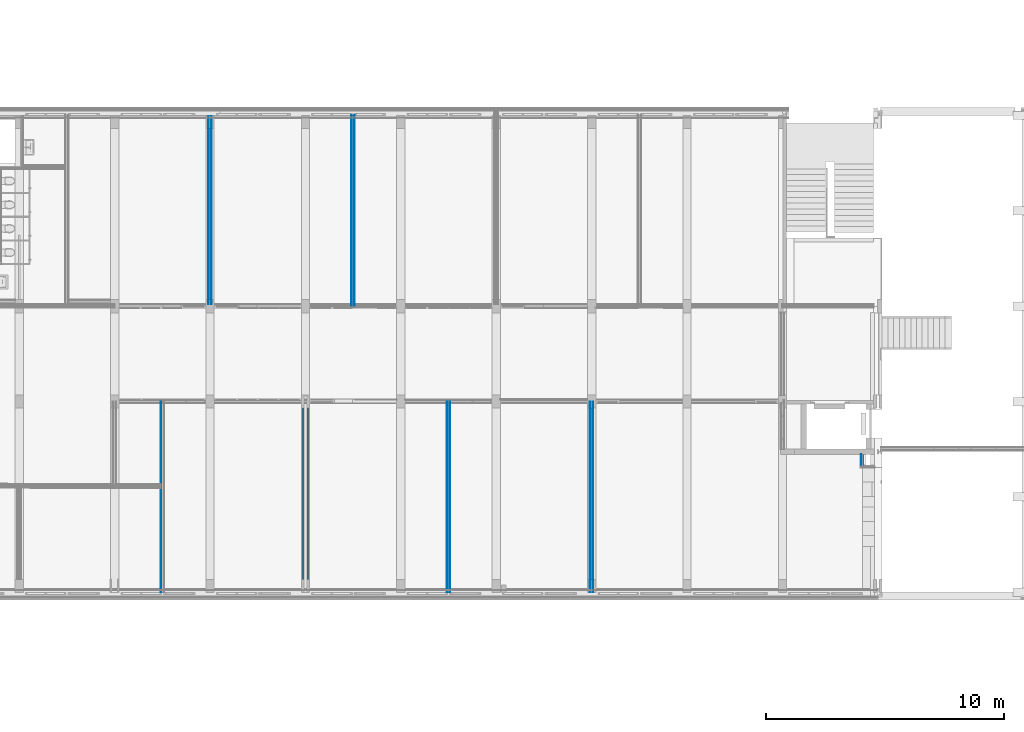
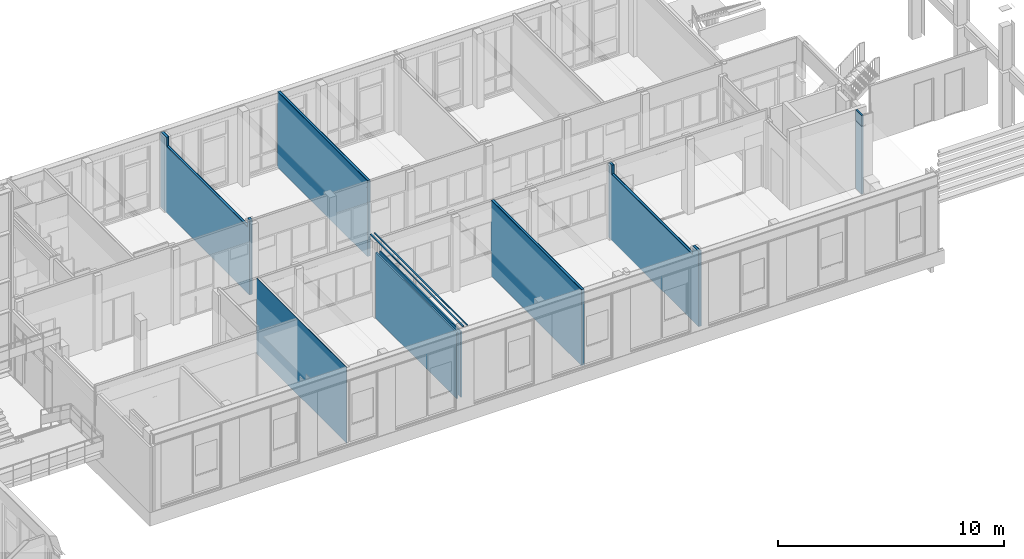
# One storey, part 53 of 94: 26 building element parts, 7 elements without a shape of their own.
"""IFC2X3 building model written with IfcOpenShell, lengths in millimetres."""

from ifc_helpers import new_model, entity, si_unit, converted_unit, derived_unit, money_unit, direction, frame, origin_with_axes, place, context, subcontext, project, spatial, faceted_brep, material, type_object, element, aggregate, save


model = new_model("IFC2X3")

# Units and contexts
model_context = context("Model", 3, precision=0.01, world=origin_with_axes(), true_north=direction((0.0, 1.0)))
body_context = subcontext(model_context, "Body", "Model", "MODEL_VIEW")
ifc_project = project(units=[si_unit("LENGTHUNIT", "METRE", prefix="MILLI"), si_unit("AREAUNIT", "SQUARE_METRE"), si_unit("VOLUMEUNIT", "CUBIC_METRE"), converted_unit("PLANEANGLEUNIT", "DEGREE", entity("IfcPlaneAngleMeasure", 0.0174532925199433), si_unit("PLANEANGLEUNIT", "RADIAN"), dimensions=[0, 0, 0, 0, 0, 0, 0]), money_unit("EUR"), converted_unit("TIMEUNIT", "Year", entity("IfcTimeMeasure", 31557600.0), si_unit("TIMEUNIT", "SECOND"), dimensions=[0, 0, 1, 0, 0, 0, 0]), si_unit("MASSUNIT", "GRAM", prefix="KILO"), si_unit("THERMODYNAMICTEMPERATUREUNIT", "DEGREE_CELSIUS"), si_unit("LUMINOUSINTENSITYUNIT", "LUMEN"), si_unit("ENERGYUNIT", "JOULE", prefix="MEGA"), derived_unit("THERMALCONDUCTANCEUNIT", [(si_unit("POWERUNIT", "WATT"), 1), (si_unit("LENGTHUNIT", "METRE"), -1), (si_unit("THERMODYNAMICTEMPERATUREUNIT", "KELVIN"), -1)]), derived_unit("SPECIFICHEATCAPACITYUNIT", [(si_unit("ENERGYUNIT", "JOULE"), 1), (si_unit("MASSUNIT", "GRAM", prefix="KILO"), -1), (si_unit("THERMODYNAMICTEMPERATUREUNIT", "KELVIN"), -1)]), derived_unit("MASSDENSITYUNIT", [(si_unit("MASSUNIT", "GRAM", prefix="KILO"), 1), (si_unit("VOLUMEUNIT", "CUBIC_METRE"), -1)])], contexts=[model_context])

# Site, building, storey
site_placement = place(None, origin_with_axes())
site = spatial("IfcSite", under=ifc_project, at=site_placement, Name="<site naam>", CompositionType="ELEMENT")
building_placement = place(site_placement, origin_with_axes())
building = spatial("IfcBuilding", under=site, at=building_placement, Name="<Naam gebouw>", CompositionType="ELEMENT")
storey_placement = place(building_placement, frame((0.0, 0.0, 4250.0), z_axis=(0.0, 0.0, 1.0), x_axis=(1.0, 0.0, 0.0)))
storey = spatial("IfcBuildingStorey", under=building, at=storey_placement, Name="01 1e verdieping", CompositionType="ELEMENT", Elevation=4250.0)

# Wall, building element parts
wall_type_1 = type_object("IfcWallType", Name="MS-01 GF 150 ECO DGS/2.100.2.A 150", PredefinedType="NOTDEFINED")
wall_1_placement = place(storey_placement, frame((30000.00153242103, 19999.99999973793, 0.0), z_axis=(0.0, 0.0, 1.0), x_axis=(1.683977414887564e-05, -0.9999999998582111, 0.0)))
wall_1 = element("IfcWall", 1, at=wall_1_placement, inside=storey, type_object=wall_type_1, Name="22_Binnenwand_MS-01")
ifc_material_1 = material(Name="gipsplaat")
building_element_part_1_placement = place(wall_1_placement, origin_with_axes())
building_element_part_1 = element("IfcBuildingElementPart", 2, at=building_element_part_1_placement, material=ifc_material_1, Name="gipsplaat", context=body_context, shape_type="Brep", body=[
    faceted_brep([(0.0, 62.50000000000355, 4100.0), (7971.001023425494, 62.49999998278, 4100.0), (7971.000000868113, 62.49999999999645, 0.0), (0.0, 62.50000000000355, 0.0), (7912.517790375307, 62.49999999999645, 3740.0), (7912.517790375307, 62.49999999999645, 3700.0), (7919.705738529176, 62.49999999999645, 3700.0), (7919.705738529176, 62.49999999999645, 3740.0), (7971.000818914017, 49.99999998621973, 4100.0), (0.0, 50.00000000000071, 4100.0), (7971.000000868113, 49.99999999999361, 0.0), (0.0, 50.00000000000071, 0.0), (7912.517579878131, 49.99999999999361, 3740.0), (7912.517579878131, 49.99999999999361, 3700.0), (7919.705528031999, 49.99999999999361, 3700.0), (7919.705528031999, 49.99999999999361, 3740.0)], [[[0, 1, 2, 3], [4, 5, 6, 7]], [[8, 1, 0, 9]], [[1, 8, 10, 2]], [[3, 2, 10, 11]], [[9, 0, 3, 11]], [[12, 13, 5, 4]], [[13, 14, 6, 5]], [[14, 15, 7, 6]], [[15, 12, 4, 7]], [[8, 9, 11, 10], [12, 15, 14, 13]]]),
])
ifc_material_2 = material(Name="isolatie_steenwol LSW")
building_element_part_2_placement = place(wall_1_placement, origin_with_axes())
building_element_part_2 = element("IfcBuildingElementPart", 3, at=building_element_part_2_placement, material=ifc_material_2, Name="isolatie_steenwol LSW", context=body_context, shape_type="Brep", body=[
    faceted_brep([(0.0, 50.00000000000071, 4100.0), (7971.000818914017, 49.99999998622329, 4100.0), (7971.000000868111, 49.99999999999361, 0.0), (0.0, 50.00000000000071, 0.0), (7912.517579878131, 49.99999999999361, 3740.0), (7912.517579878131, 49.99999999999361, 3700.0), (7919.705528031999, 49.99999999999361, 3700.0), (7919.705528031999, 49.99999999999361, 3740.0), (7970.999182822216, -49.99999998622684, 4100.0), (0.0, -49.99999999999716, 4100.0), (7971.000000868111, -50.00000000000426, 0.0), (0.0, -49.99999999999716, 0.0), (7912.515895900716, -50.00000000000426, 3740.0), (7912.515895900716, -50.00000000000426, 3700.0), (7919.703844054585, -50.00000000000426, 3700.0), (7919.703844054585, -50.00000000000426, 3740.0)], [[[0, 1, 2, 3], [4, 5, 6, 7]], [[8, 1, 0, 9]], [[1, 8, 10, 2]], [[3, 2, 10, 11]], [[9, 0, 3, 11]], [[12, 13, 5, 4]], [[13, 14, 6, 5]], [[14, 15, 7, 6]], [[15, 12, 4, 7]], [[8, 9, 11, 10], [12, 15, 14, 13]]]),
])
building_element_part_3_placement = place(wall_1_placement, origin_with_axes())
building_element_part_3 = element("IfcBuildingElementPart", 4, at=building_element_part_3_placement, material=ifc_material_1, Name="gipsplaat", context=body_context, shape_type="Brep", body=[
    faceted_brep([(0.0, -49.99999999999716, 4100.0), (7970.999182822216, -49.99999998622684, 4100.0), (7971.000000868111, -50.00000000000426, 0.0), (0.0, -49.99999999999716, 0.0), (7912.515895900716, -50.00000000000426, 3740.0), (7912.515895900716, -50.00000000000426, 3700.0), (7919.703844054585, -50.00000000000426, 3700.0), (7919.703844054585, -50.00000000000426, 3740.0), (7970.99897831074, -62.49999998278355, 4100.0), (0.0, -62.5, 4100.0), (7971.000000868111, -62.50000000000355, 0.0), (0.0, -62.5, 0.0), (7912.515685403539, -62.50000000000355, 3740.0), (7912.515685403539, -62.50000000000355, 3700.0), (7919.703633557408, -62.50000000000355, 3700.0), (7919.703633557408, -62.50000000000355, 3740.0)], [[[0, 1, 2, 3], [4, 5, 6, 7]], [[8, 1, 0, 9]], [[1, 8, 10, 2]], [[3, 2, 10, 11]], [[9, 0, 3, 11]], [[12, 13, 5, 4]], [[13, 14, 6, 5]], [[14, 15, 7, 6]], [[15, 12, 4, 7]], [[8, 9, 11, 10], [12, 15, 14, 13]]]),
])
building_element_part_4_placement = place(wall_1_placement, origin_with_axes())
building_element_part_4 = element("IfcBuildingElementPart", 5, at=building_element_part_4_placement, material=ifc_material_1, Name="gipsplaat", context=body_context, shape_type="Brep", body=[
    faceted_brep([(0.0, -62.5, 4100.0), (7970.99897831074, -62.49999998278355, 4100.0), (7971.000000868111, -62.50000000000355, 0.0), (0.0, -62.5, 0.0), (7912.515685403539, -62.50000000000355, 3740.0), (7912.515685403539, -62.50000000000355, 3700.0), (7919.703633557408, -62.50000000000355, 3700.0), (7919.703633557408, -62.50000000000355, 3740.0), (7970.998773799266, -74.99999997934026, 4100.0), (0.0, -74.99999999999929, 4100.0), (7971.000000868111, -75.00000000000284, 0.0), (7921.609449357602, -74.99748490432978, 0.0), (74.99874286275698, -74.86534975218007, 0.0), (74.99874059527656, -75.00000000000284, 0.0), (0.0, -74.99999999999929, 0.0), (7912.515474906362, -75.00000000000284, 3740.0), (7912.515474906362, -75.00000000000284, 3700.0), (7919.70342306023, -75.00000000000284, 3700.0), (7919.70342306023, -75.00000000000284, 3740.0), (74.99874059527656, -75.00000000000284, 3.000000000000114), (7921.609449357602, -74.99748490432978, 3.000000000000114), (74.99874286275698, -74.86534975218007, 3.000000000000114)], [[[0, 1, 2, 3], [4, 5, 6, 7]], [[8, 1, 0, 9]], [[1, 8, 10, 2]], [[2, 10, 11, 12, 13, 14, 3]], [[9, 0, 3, 14]], [[15, 16, 5, 4]], [[16, 17, 6, 5]], [[17, 18, 7, 6]], [[18, 15, 4, 7]], [[8, 9, 14, 13, 19, 20, 11, 10], [15, 18, 17, 16]], [[11, 20, 21, 12]], [[12, 21, 19, 13]], [[20, 19, 21]]]),
])

wall_type_2 = type_object("IfcWallType", Name="metalstud-lucht-metalstud 270 270", PredefinedType="NOTDEFINED")
wall_2_placement = place(storey_placement, frame((28000.00000000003, 0.0, 0.0), z_axis=(0.0, 0.0, 1.0), x_axis=(0.0, 1.0, 0.0)))
wall_2 = element("IfcWall", 6, at=wall_2_placement, inside=storey, type_object=wall_type_2, Name="22_Binnenwand_metalstud-lucht-metalstud")
ifc_material_3 = material(Name="metal_stud")
building_element_part_5_placement = place(wall_2_placement, origin_with_axes())
building_element_part_5 = element("IfcBuildingElementPart", 7, at=building_element_part_5_placement, material=ifc_material_3, Name="metal_stud", context=body_context, shape_type="Brep", body=[
    faceted_brep([(7725.000000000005, 135.0000000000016, 3569.999999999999), (549.9999999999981, 135.0000000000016, 3569.999999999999), (549.9999999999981, 65.00000000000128, 3569.999999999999), (7725.000000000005, 65.00000000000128, 3569.999999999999), (7725.000000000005, 135.0000000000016, 0.0), (549.9999999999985, 135.0000000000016, 0.0), (549.9999999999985, 65.00000000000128, 0.0), (7725.000000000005, 65.00000000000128, 0.0)], [[[0, 1, 2, 3]], [[4, 5, 1, 0]], [[5, 6, 2, 1]], [[3, 2, 6, 7]], [[4, 0, 3, 7]], [[7, 6, 5, 4]]]),
    faceted_brep([(0.0, 65.00000000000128, 4250.0), (0.0, 65.00000000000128, 4220.000000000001), (8225.00000000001, 65.00000000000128, 4220.000000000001), (8225.00000000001, 65.00000000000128, 4250.0), (0.0, 135.0000000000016, 4250.0), (0.0, 135.0000000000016, 4220.000000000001), (8225.00000000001, 135.0000000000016, 4220.000000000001), (8225.00000000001, 135.0000000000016, 4250.0)], [[[0, 1, 2, 3]], [[4, 5, 1, 0]], [[5, 6, 2, 1]], [[3, 2, 6, 7]], [[4, 0, 3, 7]], [[7, 6, 5, 4]]]),
])
building_element_part_6_placement = place(wall_2_placement, origin_with_axes())
building_element_part_6 = element("IfcBuildingElementPart", 8, at=building_element_part_6_placement, material=ifc_material_3, Name="metal_stud", context=body_context, shape_type="Brep", body=[
    faceted_brep([(7725.000000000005, -65.00000000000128, 3569.999999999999), (549.9999999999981, -65.00000000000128, 3569.999999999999), (549.9999999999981, -134.999999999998, 3569.999999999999), (7725.000000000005, -134.999999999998, 3569.999999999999), (7725.000000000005, -65.00000000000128, 0.0), (549.9999999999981, -65.00000000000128, 0.0), (549.9999999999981, -135.0000000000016, 0.0), (7725.000000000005, -135.0000000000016, 0.0)], [[[0, 1, 2, 3]], [[4, 5, 1, 0]], [[5, 6, 2, 1]], [[3, 2, 6, 7]], [[4, 0, 3, 7]], [[7, 6, 5, 4]]]),
    faceted_brep([(0.0, -134.999999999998, 4250.0), (0.0, -134.999999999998, 4220.000000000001), (8225.00000000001, -134.999999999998, 4220.000000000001), (8225.00000000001, -134.999999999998, 4250.0), (0.0, -65.00000000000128, 4250.0), (0.0, -65.00000000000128, 4220.000000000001), (8225.00000000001, -65.00000000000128, 4220.000000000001), (8225.00000000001, -65.00000000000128, 4250.0)], [[[0, 1, 2, 3]], [[4, 5, 1, 0]], [[5, 6, 2, 1]], [[3, 2, 6, 7]], [[4, 0, 3, 7]], [[7, 6, 5, 4]]]),
])
aggregate(wall_2, [building_element_part_5, building_element_part_6])

# Building element part
building_element_part_7_placement = place(wall_1_placement, origin_with_axes())
building_element_part_7 = element("IfcBuildingElementPart", 9, at=building_element_part_7_placement, material=ifc_material_1, Name="gipsplaat", context=body_context, shape_type="Brep", body=[
    faceted_brep([(0.0, 75.00000000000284, 4100.0), (7971.001227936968, 74.99999997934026, 4100.0), (7971.000000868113, 74.99999999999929, 0.0), (0.0, 75.00000000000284, 0.0), (7912.518000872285, 74.99998819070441, 3740.0), (7912.518000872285, 74.99998819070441, 3700.0), (7919.705949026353, 74.99999999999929, 3700.0), (7919.705949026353, 74.99999999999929, 3740.0), (7971.001023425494, 62.49999998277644, 4100.0), (0.0, 62.50000000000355, 4100.0), (7971.000000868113, 62.49999999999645, 0.0), (0.0, 62.50000000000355, 0.0), (7912.517790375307, 62.49999999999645, 3740.0), (7912.517790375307, 62.49999999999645, 3700.0), (7919.705738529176, 62.49999999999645, 3700.0), (7919.705738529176, 62.49999999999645, 3740.0)], [[[0, 1, 2, 3], [4, 5, 6, 7]], [[8, 1, 0, 9]], [[1, 8, 10, 2]], [[3, 2, 10, 11]], [[9, 0, 3, 11]], [[5, 4, 12, 13]], [[13, 14, 6, 5]], [[14, 15, 7, 6]], [[15, 12, 4, 7]], [[8, 9, 11, 10], [12, 15, 14, 13]]]),
])

aggregate(wall_1, [building_element_part_1, building_element_part_2, building_element_part_3, building_element_part_4, building_element_part_7])

# Wall, building element parts
wall_3_placement = place(storey_placement, frame((24000.00000000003, 19954.99999617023, 0.0), z_axis=(0.0, 0.0, 1.0), x_axis=(0.0, -1.0, 0.0)))
wall_3 = element("IfcWall", 10, at=wall_3_placement, inside=storey, type_object=wall_type_1, Name="22_Binnenwand_MS-01")
building_element_part_8_placement = place(wall_3_placement, origin_with_axes())
building_element_part_8 = element("IfcBuildingElementPart", 11, at=building_element_part_8_placement, material=ifc_material_1, Name="gipsplaat", context=body_context, shape_type="Brep", body=[
    faceted_brep([(0.0, 62.5, 4050.000000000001), (0.0, 74.99999999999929, 4050.000000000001), (0.0, 74.99999999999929, 0.0), (0.0, 62.5, 0.0), (504.9999961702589, 74.99999999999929, 4050.000000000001), (504.9999961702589, 62.5, 4050.000000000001), (7679.999996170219, 74.99999999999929, 4050.000000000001), (7879.999996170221, 74.99999999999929, 4050.000000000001), (7879.999996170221, 74.99999999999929, 0.0), (504.9999961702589, 74.99999999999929, 3569.999999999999), (7679.999996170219, 74.99999999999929, 3569.999999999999), (7879.999996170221, 62.5, 0.0), (7879.999996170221, 62.5, 4050.000000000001), (7679.999996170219, 62.5, 4050.000000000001), (7679.999996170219, 62.5, 3569.999999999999), (504.9999961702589, 62.5, 3569.999999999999)], [[[0, 1, 2, 3]], [[4, 1, 0, 5]], [[6, 7, 8, 2, 1, 4, 9, 10]], [[3, 2, 8, 11]], [[5, 0, 3, 11, 12, 13, 14, 15]], [[9, 4, 5, 15]], [[7, 6, 13, 12]], [[7, 12, 11, 8]], [[10, 9, 15, 14]], [[6, 10, 14, 13]]]),
])
building_element_part_9_placement = place(wall_3_placement, origin_with_axes())
building_element_part_9 = element("IfcBuildingElementPart", 12, at=building_element_part_9_placement, material=ifc_material_2, Name="isolatie_steenwol LSW", context=body_context, shape_type="Brep", body=[
    faceted_brep([(0.0, -50.00000000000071, 4050.000000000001), (0.0, 50.00000000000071, 4050.000000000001), (0.0, 50.00000000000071, 0.0), (0.0, -50.00000000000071, 0.0), (504.9999961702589, 50.00000000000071, 4050.000000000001), (504.9999961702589, -50.00000000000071, 4050.000000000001), (7679.999996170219, 50.00000000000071, 4050.000000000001), (7879.999996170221, 50.00000000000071, 4050.000000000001), (7879.999996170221, 50.00000000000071, 0.0), (504.9999961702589, 50.00000000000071, 3569.999999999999), (7679.999996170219, 50.00000000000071, 3569.999999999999), (7879.999996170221, -50.00000000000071, 0.0), (7879.999996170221, -50.00000000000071, 4050.000000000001), (7679.999996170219, -50.00000000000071, 4050.000000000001), (7679.999996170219, -50.00000000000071, 3569.999999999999), (504.9999961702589, -50.00000000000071, 3569.999999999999)], [[[0, 1, 2, 3]], [[4, 1, 0, 5]], [[6, 7, 8, 2, 1, 4, 9, 10]], [[3, 2, 8, 11]], [[5, 0, 3, 11, 12, 13, 14, 15]], [[9, 4, 5, 15]], [[7, 6, 13, 12]], [[7, 12, 11, 8]], [[10, 9, 15, 14]], [[6, 10, 14, 13]]]),
])
building_element_part_10_placement = place(wall_3_placement, origin_with_axes())
building_element_part_10 = element("IfcBuildingElementPart", 13, at=building_element_part_10_placement, material=ifc_material_1, Name="gipsplaat", context=body_context, shape_type="Brep", body=[
    faceted_brep([(0.0, -62.5, 4050.000000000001), (0.0, -50.00000000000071, 4050.000000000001), (0.0, -50.00000000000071, 0.0), (0.0, -62.5, 0.0), (504.9999961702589, -50.00000000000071, 4050.000000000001), (504.9999961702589, -62.5, 4050.000000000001), (7679.999996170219, -50.00000000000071, 4050.000000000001), (7879.999996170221, -50.00000000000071, 4050.000000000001), (7879.999996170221, -50.00000000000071, 0.0), (504.9999961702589, -50.00000000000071, 3569.999999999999), (7679.999996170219, -50.00000000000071, 3569.999999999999), (7879.999996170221, -62.5, 0.0), (7879.999996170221, -62.5, 4050.000000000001), (7679.999996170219, -62.5, 4050.000000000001), (7679.999996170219, -62.5, 3569.999999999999), (504.9999961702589, -62.5, 3569.999999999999)], [[[0, 1, 2, 3]], [[4, 1, 0, 5]], [[6, 7, 8, 2, 1, 4, 9, 10]], [[3, 2, 8, 11]], [[5, 0, 3, 11, 12, 13, 14, 15]], [[9, 4, 5, 15]], [[7, 6, 13, 12]], [[7, 12, 11, 8]], [[10, 9, 15, 14]], [[6, 10, 14, 13]]]),
])
building_element_part_11_placement = place(wall_3_placement, origin_with_axes())
building_element_part_11 = element("IfcBuildingElementPart", 14, at=building_element_part_11_placement, material=ifc_material_1, Name="gipsplaat", context=body_context, shape_type="Brep", body=[
    faceted_brep([(0.0, 50.00000000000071, 4050.000000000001), (0.0, 62.5, 4050.000000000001), (0.0, 62.5, 0.0), (0.0, 50.00000000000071, 0.0), (504.9999961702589, 62.5, 4050.000000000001), (504.9999961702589, 50.00000000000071, 4050.000000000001), (7679.999996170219, 62.5, 4050.000000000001), (7879.999996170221, 62.5, 4050.000000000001), (7879.999996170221, 62.5, 0.0), (504.9999961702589, 62.5, 3569.999999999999), (7679.999996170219, 62.5, 3569.999999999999), (7879.999996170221, 50.00000000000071, 0.0), (7879.999996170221, 50.00000000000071, 4050.000000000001), (7679.999996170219, 50.00000000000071, 4050.000000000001), (7679.999996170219, 50.00000000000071, 3569.999999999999), (504.9999961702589, 50.00000000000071, 3569.999999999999)], [[[0, 1, 2, 3]], [[4, 1, 0, 5]], [[6, 7, 8, 2, 1, 4, 9, 10]], [[3, 2, 8, 11]], [[5, 0, 3, 11, 12, 13, 14, 15]], [[9, 4, 5, 15]], [[7, 6, 13, 12]], [[7, 12, 11, 8]], [[10, 9, 15, 14]], [[6, 10, 14, 13]]]),
])
building_element_part_12_placement = place(wall_3_placement, origin_with_axes())
building_element_part_12 = element("IfcBuildingElementPart", 15, at=building_element_part_12_placement, material=ifc_material_1, Name="gipsplaat", context=body_context, shape_type="Brep", body=[
    faceted_brep([(0.0, -74.99999999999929, 4050.000000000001), (0.0, -62.5, 4050.000000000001), (0.0, -62.5, 0.0), (0.0, -74.99999999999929, 0.0), (504.9999961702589, -62.5, 4050.000000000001), (504.9999961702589, -74.99999999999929, 4050.000000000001), (7679.999996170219, -62.5, 4050.000000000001), (7879.999996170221, -62.5, 4050.000000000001), (7879.999996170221, -62.5, 0.0), (504.9999961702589, -62.5, 3569.999999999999), (7679.999996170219, -62.5, 3569.999999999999), (7879.999996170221, -74.99999999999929, 0.0), (7879.999996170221, -74.99999999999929, 4050.000000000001), (7679.999996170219, -74.99999999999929, 4050.000000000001), (7679.999996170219, -74.99999999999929, 3569.999999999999), (504.9999961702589, -74.99999999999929, 3569.999999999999)], [[[0, 1, 2, 3]], [[4, 1, 0, 5]], [[6, 7, 8, 2, 1, 4, 9, 10]], [[3, 2, 8, 11]], [[5, 0, 3, 11, 12, 13, 14, 15]], [[9, 4, 5, 15]], [[7, 6, 13, 12]], [[7, 12, 11, 8]], [[10, 9, 15, 14]], [[6, 10, 14, 13]]]),
])
aggregate(wall_3, [building_element_part_8, building_element_part_9, building_element_part_10, building_element_part_11, building_element_part_12])

wall_4_placement = place(storey_placement, frame((40000.00000000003, 7998.790787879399, 0.0), z_axis=(0.0, 0.0, 1.0), x_axis=(0.0, -1.0, 0.0)))
wall_4 = element("IfcWall", 16, at=wall_4_placement, inside=storey, type_object=wall_type_1, Name="22_Binnenwand_MS-01")
building_element_part_13_placement = place(wall_4_placement, origin_with_axes())
building_element_part_13 = element("IfcBuildingElementPart", 17, at=building_element_part_13_placement, material=ifc_material_1, Name="gipsplaat", context=body_context, shape_type="Brep", body=[
    faceted_brep([(0.0, 62.5, 4050.000000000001), (0.0, 75.00000000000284, 4050.000000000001), (0.0, 75.00000000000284, 0.0), (0.0, 62.5, 0.0), (273.7907878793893, 75.00000000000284, 4050.000000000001), (273.7907878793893, 62.5, 4050.000000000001), (7993.244637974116, 75.00000000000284, 4050.000000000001), (7993.244637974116, 74.99999999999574, 4100.0), (7998.790787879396, 74.99999999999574, 4100.0), (7998.790787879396, 74.99999999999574, 0.0), (7448.790717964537, 75.00000000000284, 0.0), (7448.790717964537, 74.99999999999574, 3.000000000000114), (273.7908820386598, 74.99999999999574, 3.000000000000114), (273.7908820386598, 75.00000000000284, 0.0), (273.7907878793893, 75.00000000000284, 3569.999999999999), (7448.790787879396, 75.00000000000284, 3569.999999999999), (7448.790787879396, 75.00000000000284, 4050.000000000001), (273.7908820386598, 74.84543691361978, 0.0), (7448.790717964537, 74.84543691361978, 0.0), (7998.790787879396, 62.5, 0.0), (7998.790787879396, 62.5, 4100.0), (7993.244637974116, 62.5, 4100.0), (7993.244637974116, 62.5, 4050.000000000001), (7448.790787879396, 62.5, 4050.000000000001), (7448.790787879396, 62.5, 3569.999999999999), (273.7907878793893, 62.5, 3569.999999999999), (7448.790717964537, 74.84543691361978, 3.000000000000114), (273.7908820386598, 74.84543691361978, 3.000000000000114)], [[[0, 1, 2, 3]], [[4, 1, 0, 5]], [[6, 7, 8, 9, 10, 11, 12, 13, 2, 1, 4, 14, 15, 16]], [[13, 17, 18, 10, 9, 19, 3, 2]], [[5, 0, 3, 19, 20, 21, 22, 23, 24, 25]], [[14, 4, 5, 25]], [[21, 7, 6, 22]], [[7, 21, 20, 8]], [[9, 8, 20, 19]], [[18, 26, 11, 10]], [[26, 27, 12, 11]], [[27, 17, 13, 12]], [[15, 14, 25, 24]], [[16, 15, 24, 23]], [[6, 16, 23, 22]], [[27, 26, 18, 17]]]),
])
building_element_part_14_placement = place(wall_4_placement, origin_with_axes())
building_element_part_14 = element("IfcBuildingElementPart", 18, at=building_element_part_14_placement, material=ifc_material_1, Name="gipsplaat", context=body_context, shape_type="Brep", body=[
    faceted_brep([(0.0, 49.99999999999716, 4050.000000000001), (0.0, 62.5, 4050.000000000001), (0.0, 62.5, 0.0), (0.0, 49.99999999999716, 0.0), (273.7907878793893, 62.5, 4050.000000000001), (273.7907878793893, 49.99999999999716, 4050.000000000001), (7993.244637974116, 62.5, 4050.000000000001), (7993.244637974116, 62.5, 4100.0), (7998.790787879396, 62.5, 4100.0), (7998.790787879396, 62.5, 0.0), (273.7907878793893, 62.5, 3569.999999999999), (7448.790787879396, 62.5, 3569.999999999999), (7448.790787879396, 62.5, 4050.000000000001), (7998.790787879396, 49.99999999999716, 0.0), (7998.790787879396, 49.99999999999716, 4100.0), (7993.244637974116, 49.99999999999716, 4100.0), (7993.244637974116, 49.99999999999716, 4050.000000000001), (7448.790787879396, 49.99999999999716, 4050.000000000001), (7448.790787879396, 49.99999999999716, 3569.999999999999), (273.7907878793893, 49.99999999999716, 3569.999999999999)], [[[0, 1, 2, 3]], [[4, 1, 0, 5]], [[6, 7, 8, 9, 2, 1, 4, 10, 11, 12]], [[3, 2, 9, 13]], [[5, 0, 3, 13, 14, 15, 16, 17, 18, 19]], [[10, 4, 5, 19]], [[15, 7, 6, 16]], [[7, 15, 14, 8]], [[9, 8, 14, 13]], [[11, 10, 19, 18]], [[12, 11, 18, 17]], [[6, 12, 17, 16]]]),
])
building_element_part_15_placement = place(wall_4_placement, origin_with_axes())
building_element_part_15 = element("IfcBuildingElementPart", 19, at=building_element_part_15_placement, material=ifc_material_2, Name="isolatie_steenwol LSW", context=body_context, shape_type="Brep", body=[
    faceted_brep([(0.0, -49.99999999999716, 4050.000000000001), (0.0, 49.99999999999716, 4050.000000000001), (0.0, 49.99999999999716, 0.0), (0.0, -49.99999999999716, 0.0), (273.7907878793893, 49.99999999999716, 4050.000000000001), (273.7907878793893, -50.00000000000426, 4050.000000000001), (7993.244637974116, 49.99999999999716, 4050.000000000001), (7993.244637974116, 49.99999999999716, 4100.0), (7998.790787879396, 49.99999999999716, 4100.0), (7998.790787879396, 49.99999999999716, 0.0), (273.7907878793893, 49.99999999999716, 3569.999999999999), (7448.790787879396, 49.99999999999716, 3569.999999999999), (7448.790787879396, 49.99999999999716, 4050.000000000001), (7998.790787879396, -50.00000000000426, 0.0), (7998.790787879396, -50.00000000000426, 4100.0), (7993.244637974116, -50.00000000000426, 4100.0), (7993.244637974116, -50.00000000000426, 4050.000000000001), (7448.790787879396, -50.00000000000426, 4050.000000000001), (7448.790787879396, -50.00000000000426, 3569.999999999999), (273.7907878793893, -50.00000000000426, 3569.999999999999)], [[[0, 1, 2, 3]], [[4, 1, 0, 5]], [[6, 7, 8, 9, 2, 1, 4, 10, 11, 12]], [[3, 2, 9, 13]], [[5, 0, 3, 13, 14, 15, 16, 17, 18, 19]], [[10, 4, 5, 19]], [[15, 7, 6, 16]], [[7, 15, 14, 8]], [[9, 8, 14, 13]], [[11, 10, 19, 18]], [[12, 11, 18, 17]], [[6, 12, 17, 16]]]),
])
building_element_part_16_placement = place(wall_4_placement, origin_with_axes())
building_element_part_16 = element("IfcBuildingElementPart", 20, at=building_element_part_16_placement, material=ifc_material_1, Name="gipsplaat", context=body_context, shape_type="Brep", body=[
    faceted_brep([(0.0, -62.5, 4050.000000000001), (0.0, -49.99999999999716, 4050.000000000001), (0.0, -49.99999999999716, 0.0), (0.0, -62.5, 0.0), (273.7907878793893, -49.99999999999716, 4050.000000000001), (273.7907878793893, -62.5, 4050.000000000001), (7993.244637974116, -49.99999999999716, 4050.000000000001), (7993.244637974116, -50.00000000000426, 4100.0), (7998.790787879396, -50.00000000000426, 4100.0), (7998.790787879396, -50.00000000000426, 0.0), (273.7907878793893, -49.99999999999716, 3569.999999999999), (7448.790787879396, -49.99999999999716, 3569.999999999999), (7448.790787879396, -49.99999999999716, 4050.000000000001), (7998.790787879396, -62.5, 0.0), (7998.790787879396, -62.5, 4100.0), (7993.244637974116, -62.5, 4100.0), (7993.244637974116, -62.5, 4050.000000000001), (7448.790787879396, -62.5, 4050.000000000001), (7448.790787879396, -62.5, 3569.999999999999), (273.7907878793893, -62.5, 3569.999999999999)], [[[0, 1, 2, 3]], [[4, 1, 0, 5]], [[6, 7, 8, 9, 2, 1, 4, 10, 11, 12]], [[3, 2, 9, 13]], [[5, 0, 3, 13, 14, 15, 16, 17, 18, 19]], [[10, 4, 5, 19]], [[15, 7, 6, 16]], [[7, 15, 14, 8]], [[9, 8, 14, 13]], [[11, 10, 19, 18]], [[12, 11, 18, 17]], [[6, 12, 17, 16]]]),
])
building_element_part_17_placement = place(wall_4_placement, origin_with_axes())
building_element_part_17 = element("IfcBuildingElementPart", 21, at=building_element_part_17_placement, material=ifc_material_1, Name="gipsplaat", context=body_context, shape_type="Brep", body=[
    faceted_brep([(0.0, -75.00000000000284, 4050.000000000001), (0.0, -62.5, 4050.000000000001), (0.0, -62.5, 0.0), (0.0, -75.00000000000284, 0.0), (273.7907878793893, -62.5, 4050.000000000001), (273.7907878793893, -75.00000000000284, 4050.000000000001), (7993.244637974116, -62.5, 4050.000000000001), (7993.244637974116, -62.5, 4100.0), (7998.790787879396, -62.5, 4100.0), (7998.790787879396, -62.5, 0.0), (273.7907878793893, -62.5, 3569.999999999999), (7448.790787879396, -62.5, 3569.999999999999), (7448.790787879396, -62.5, 4050.000000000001), (7998.790787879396, -75.00000000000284, 0.0), (7998.790787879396, -75.00000000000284, 4100.0), (7993.244637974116, -75.00000000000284, 4100.0), (7993.244637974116, -75.00000000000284, 4050.000000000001), (7448.790787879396, -75.00000000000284, 4050.000000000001), (7448.790787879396, -75.00000000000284, 3569.999999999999), (273.7907878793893, -75.00000000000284, 3569.999999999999)], [[[0, 1, 2, 3]], [[4, 1, 0, 5]], [[6, 7, 8, 9, 2, 1, 4, 10, 11, 12]], [[3, 2, 9, 13]], [[5, 0, 3, 13, 14, 15, 16, 17, 18, 19]], [[10, 4, 5, 19]], [[15, 7, 6, 16]], [[7, 15, 14, 8]], [[9, 8, 14, 13]], [[11, 10, 19, 18]], [[12, 11, 18, 17]], [[6, 12, 17, 16]]]),
])
aggregate(wall_4, [building_element_part_13, building_element_part_14, building_element_part_15, building_element_part_16, building_element_part_17])

wall_5_placement = place(storey_placement, frame((22000.01157608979, 7995.39108428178, 0.0), z_axis=(0.0, 0.0, 1.0), x_axis=(-1.431887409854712e-06, -0.9999999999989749, 0.0)))
wall_5 = element("IfcWall", 22, at=wall_5_placement, inside=storey, type_object=wall_type_1, Name="22_Binnenwand_MS-01")
building_element_part_18_placement = place(wall_5_placement, origin_with_axes())
building_element_part_18 = element("IfcBuildingElementPart", 23, at=building_element_part_18_placement, material=ifc_material_1, Name="gipsplaat", context=body_context, shape_type="Brep", body=[
    faceted_brep([(0.0, -74.99999999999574, 4100.0), (0.0, -62.5, 4100.0), (0.0, -62.5, 0.0), (0.0, -74.99999999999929, 0.0), (7995.39108391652, -62.50000000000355, 4100.0), (7995.39108391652, -75.00000000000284, 4100.0), (7995.39108391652, -62.50000000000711, 0.0), (7995.39108391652, -75.00000000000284, 0.0)], [[[0, 1, 2, 3]], [[4, 1, 0, 5]], [[1, 4, 6, 2]], [[3, 2, 6, 7]], [[5, 0, 3, 7]], [[4, 5, 7, 6]]]),
])
building_element_part_19_placement = place(wall_5_placement, origin_with_axes())
building_element_part_19 = element("IfcBuildingElementPart", 24, at=building_element_part_19_placement, material=ifc_material_1, Name="gipsplaat", context=body_context, shape_type="Brep", body=[
    faceted_brep([(0.0, -62.5, 4100.0), (0.0, -50.00000000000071, 4100.0), (0.0, -50.00000000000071, 0.0), (0.0, -62.5, 0.0), (7995.39108391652, -50.00000000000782, 4100.0), (7995.39108391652, -62.50000000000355, 4100.0), (7995.39108391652, -50.00000000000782, 0.0), (7995.39108391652, -62.50000000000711, 0.0)], [[[0, 1, 2, 3]], [[4, 1, 0, 5]], [[1, 4, 6, 2]], [[2, 6, 7, 3]], [[5, 0, 3, 7]], [[4, 5, 7, 6]]]),
])
aggregate(wall_5, [building_element_part_18, building_element_part_19])

wall_6_placement = place(storey_placement, frame((34000.00014170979, 7997.863596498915, 0.0), z_axis=(0.0, 0.0, 1.0), x_axis=(0.0, -1.0, 0.0)))
wall_6 = element("IfcWall", 25, at=wall_6_placement, inside=storey, type_object=wall_type_1, Name="22_Binnenwand_MS-01")
building_element_part_20_placement = place(wall_6_placement, origin_with_axes())
building_element_part_20 = element("IfcBuildingElementPart", 26, at=building_element_part_20_placement, material=ifc_material_1, Name="gipsplaat", context=body_context, shape_type="Brep", body=[
    faceted_brep([(0.0, 62.5, 4100.0), (0.0, 75.00000000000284, 4100.0), (0.0, 75.00000000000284, 0.0), (0.0, 62.5, 0.0), (7997.86359612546, 74.99999999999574, 4100.0), (7997.86359612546, 62.5, 4100.0), (7997.86359612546, 74.99999999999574, 0.0), (7997.86359612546, 62.5, 0.0)], [[[0, 1, 2, 3]], [[4, 1, 0, 5]], [[1, 4, 6, 2]], [[2, 6, 7, 3]], [[5, 0, 3, 7]], [[4, 5, 7, 6]]]),
])
building_element_part_21_placement = place(wall_6_placement, origin_with_axes())
building_element_part_21 = element("IfcBuildingElementPart", 27, at=building_element_part_21_placement, material=ifc_material_2, Name="isolatie_steenwol LSW", context=body_context, shape_type="Brep", body=[
    faceted_brep([(0.0, -49.99999999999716, 4100.0), (0.0, 49.99999999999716, 4100.0), (0.0, 49.99999999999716, 0.0), (0.0, -49.99999999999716, 0.0), (7997.86359612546, 49.99999999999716, 4100.0), (7997.86359612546, -50.00000000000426, 4100.0), (7997.86359612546, 49.99999999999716, 0.0), (7997.86359612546, -50.00000000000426, 0.0)], [[[0, 1, 2, 3]], [[4, 1, 0, 5]], [[1, 4, 6, 2]], [[2, 6, 7, 3]], [[5, 0, 3, 7]], [[4, 5, 7, 6]]]),
])
building_element_part_22_placement = place(wall_6_placement, origin_with_axes())
building_element_part_22 = element("IfcBuildingElementPart", 28, at=building_element_part_22_placement, material=ifc_material_1, Name="gipsplaat", context=body_context, shape_type="Brep", body=[
    faceted_brep([(0.0, 49.99999999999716, 4100.0), (0.0, 62.5, 4100.0), (0.0, 62.5, 0.0), (0.0, 49.99999999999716, 0.0), (7997.86359612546, 62.5, 4100.0), (7997.86359612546, 49.99999999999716, 4100.0), (7997.86359612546, 62.5, 0.0), (7997.86359612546, 49.99999999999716, 0.0)], [[[0, 1, 2, 3]], [[4, 1, 0, 5]], [[1, 4, 6, 2]], [[2, 6, 7, 3]], [[5, 0, 3, 7]], [[4, 5, 7, 6]]]),
])
building_element_part_23_placement = place(wall_6_placement, origin_with_axes())
building_element_part_23 = element("IfcBuildingElementPart", 29, at=building_element_part_23_placement, material=ifc_material_1, Name="gipsplaat", context=body_context, shape_type="Brep", body=[
    faceted_brep([(0.0, -62.5, 4100.0), (0.0, -49.99999999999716, 4100.0), (0.0, -49.99999999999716, 0.0), (0.0, -62.5, 0.0), (7997.86359612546, -50.00000000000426, 4100.0), (7997.86359612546, -62.5, 4100.0), (7997.86359612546, -50.00000000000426, 0.0), (7997.86359612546, -62.5, 0.0)], [[[0, 1, 2, 3]], [[4, 1, 0, 5]], [[1, 4, 6, 2]], [[2, 6, 7, 3]], [[5, 0, 3, 7]], [[4, 5, 7, 6]]]),
])
building_element_part_24_placement = place(wall_6_placement, origin_with_axes())
building_element_part_24 = element("IfcBuildingElementPart", 30, at=building_element_part_24_placement, material=ifc_material_1, Name="gipsplaat", context=body_context, shape_type="Brep", body=[
    faceted_brep([(0.0, -75.00000000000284, 4100.0), (0.0, -62.5, 4100.0), (0.0, -62.5, 0.0), (0.0, -75.00000000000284, 0.0), (7997.86359612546, -62.5, 4100.0), (7997.86359612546, -75.00000000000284, 4100.0), (7997.86359612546, -62.5, 0.0), (7997.86359612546, -75.00000000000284, 0.0)], [[[0, 1, 2, 3]], [[4, 1, 0, 5]], [[1, 4, 6, 2]], [[2, 6, 7, 3]], [[5, 0, 3, 7]], [[4, 5, 7, 6]]]),
])
aggregate(wall_6, [building_element_part_20, building_element_part_21, building_element_part_22, building_element_part_23, building_element_part_24])

wall_type_3 = type_object("IfcWallType", Name="MS-04 GF 138 V/100.3.A 113", PredefinedType="NOTDEFINED")
wall_7_placement = place(storey_placement, frame((51395.00000000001, 5790.99999853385, 0.0), z_axis=(0.0, 0.0, 1.0), x_axis=(0.0, -1.0, 0.0)))
wall_7 = element("IfcWall", 31, at=wall_7_placement, inside=storey, type_object=wall_type_3, Name="22_Binnenwand_MS-04")
building_element_part_25_placement = place(wall_7_placement, origin_with_axes())
building_element_part_25 = element("IfcBuildingElementPart", 32, at=building_element_part_25_placement, material=ifc_material_2, Name="isolatie_steenwol LSW", context=body_context, shape_type="Brep", body=[
    faceted_brep([(0.0, -75.00000000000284, 3660.0), (0.0, 0.0, 3660.0), (0.0, 0.0, 0.0), (0.0, -75.00000000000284, 0.0), (525.0000000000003, 0.0, 3660.0), (525.0000000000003, -75.00000000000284, 3660.0), (525.0000000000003, 0.0, 0.0), (525.0000000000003, -75.00000000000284, 0.0)], [[[0, 1, 2, 3]], [[4, 1, 0, 5]], [[1, 4, 6, 2]], [[6, 7, 3, 2]], [[5, 0, 3, 7]], [[4, 5, 7, 6]]]),
    faceted_brep([(525.0000000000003, 0.0, 3700.0), (0.0, 0.0, 3700.0), (0.0, 0.0, 4250.0), (525.0000000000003, 0.0, 4250.0), (0.0, -75.00000000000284, 3700.0), (525.0000000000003, -75.00000000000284, 3700.0), (0.0, -75.00000000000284, 4250.0), (525.0000000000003, -75.00000000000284, 4250.0)], [[[0, 1, 2, 3]], [[4, 1, 0, 5]], [[1, 4, 6, 2]], [[7, 3, 2, 6]], [[5, 0, 3, 7]], [[4, 5, 7, 6]]]),
])
building_element_part_26_placement = place(wall_7_placement, origin_with_axes())
building_element_part_26 = element("IfcBuildingElementPart", 33, at=building_element_part_26_placement, material=ifc_material_1, Name="gipsplaat", context=body_context, shape_type="Brep", body=[
    faceted_brep([(0.0, -100.0000000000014, 3660.0), (0.0, -87.49999999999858, 3660.0), (0.0, -87.49999999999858, 0.0), (0.0, -100.0000000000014, 0.0), (549.9999999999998, -87.49999999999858, 3660.0), (549.9999999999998, -100.0000000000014, 3660.0), (549.9999999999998, -87.49999999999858, 0.0), (549.9999999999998, -100.0000000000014, 0.0)], [[[0, 1, 2, 3]], [[4, 1, 0, 5]], [[1, 4, 6, 2]], [[6, 7, 3, 2]], [[5, 0, 3, 7]], [[4, 5, 7, 6]]]),
    faceted_brep([(549.9999999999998, -87.49999999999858, 3700.0), (0.0, -87.49999999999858, 3700.0), (0.0, -87.49999999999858, 4250.0), (549.9999999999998, -87.49999999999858, 4250.0), (0.0, -100.0000000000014, 3700.0), (549.9999999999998, -100.0000000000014, 3700.0), (0.0, -100.0000000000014, 4250.0), (549.9999999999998, -100.0000000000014, 4250.0)], [[[0, 1, 2, 3]], [[4, 1, 0, 5]], [[1, 4, 6, 2]], [[7, 3, 2, 6]], [[5, 0, 3, 7]], [[4, 5, 7, 6]]]),
])
aggregate(wall_7, [building_element_part_25, building_element_part_26])

save(model, "model.ifc")
